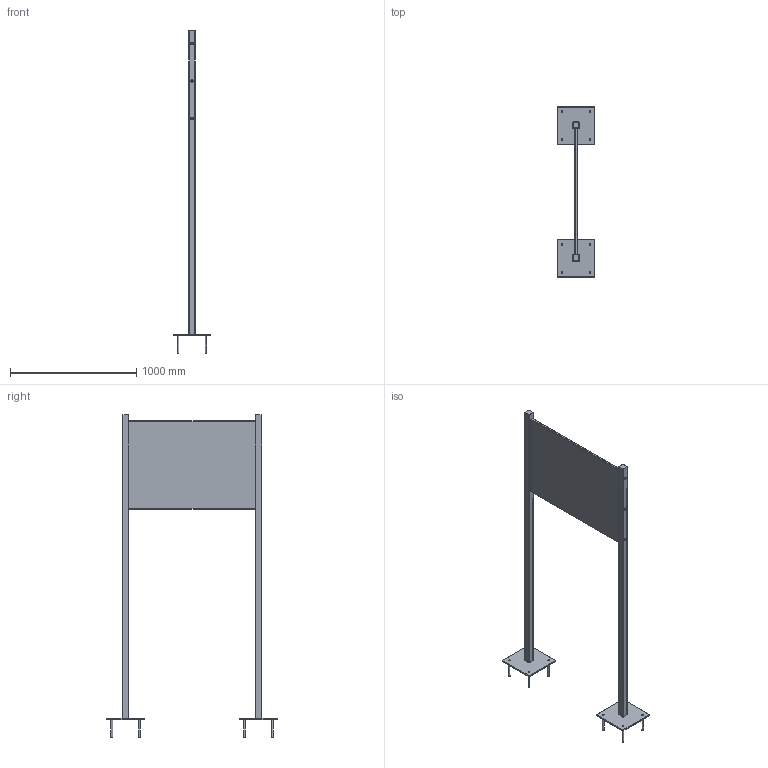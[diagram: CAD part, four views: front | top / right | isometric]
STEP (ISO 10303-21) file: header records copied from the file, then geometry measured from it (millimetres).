
FILE_DESCRIPTION(/* description */ (''),/* implementation_level */ '2;1');
FILE_NAME(/* name */ 'C:\Users\Usuario\Desktop\DOCUMENTACION PRESUPUESTOS\PENDIENTES\AYUNT ZARAGOZA_SEÑALES\despiece señalizacion\SEÑAL DOBLE POSTE\CONJUNTO SEÑAL DOBLE POSTE.stp',/* time_stamp */ '2023-01-05T06:36:12+01:00',/* author */ ('Usuario'),/* organization */ (''),/* preprocessor_version */ 'ST-DEVELOPER v18.1',/* originating_system */ 'Autodesk Inventor 2022',/* authorisation */ '');
FILE_SCHEMA (('AUTOMOTIVE_DESIGN { 1 0 10303 214 3 1 1 }'));
Length unit declared in the file: millimetre
Products named in the file (12): CONJUNTO SEÑAL DOBLE POSTE; POSTE SEÑAL DOBLE POSTE; PLACA PORTE 50X50; ANCLAJE M-14; POSTE SEÑAL DOBLE POSTE 50X50X2400; CASQUILLO POSTE BANDEROLA; TAPA POSTE 50X50; SEÑAL DOBLE POSTE; CHAPA SEÑAL DOBLE POSTE 1; CHAPA SEÑAL DOBLE POSTE 2; CONEXION SEÑAL DOBLE POSTE; DIN 7991 - M8x60
Assembly tree (23 placements, depth 3):
  CONJUNTO SEÑAL DOBLE POSTE
    POSTE SEÑAL DOBLE POSTE  x2
      PLACA PORTE 50X50
      ANCLAJE M-14
      POSTE SEÑAL DOBLE POSTE 50X50X2400
      CASQUILLO POSTE BANDEROLA
      TAPA POSTE 50X50
    SEÑAL DOBLE POSTE
      CHAPA SEÑAL DOBLE POSTE 1
      CHAPA SEÑAL DOBLE POSTE 2
      CONEXION SEÑAL DOBLE POSTE  x2
    DIN 7991 - M8x60  x6
Bounding box: 300 x 1350 x 2553 mm (x, y, z)
Volume: 6318064.8 mm3; surface area: 5283952 mm2
Topology: 30 solids, 30 shells, 310 faces, 680 edges, 436 vertices
Faces by surface type: plane 174, cylinder 106, cone 24, torus 6
Full cylindrical faces by diameter (mm): 8 x12, 8.5 x6, 14 x16, 16 x6, 20 x6, 20.5 x12
Entity records: 4175 total; most frequent: DIRECTION 714, CARTESIAN_POINT 633, ORIENTED_EDGE 578, EDGE_CURVE 289, AXIS2_PLACEMENT_3D 261, LINE 192, VECTOR 192, VERTEX_POINT 180
